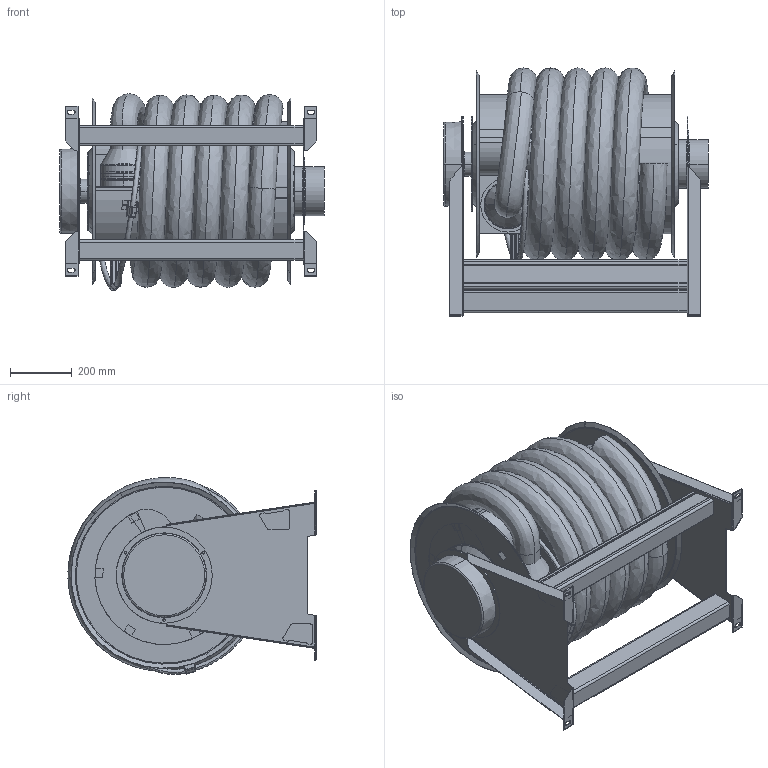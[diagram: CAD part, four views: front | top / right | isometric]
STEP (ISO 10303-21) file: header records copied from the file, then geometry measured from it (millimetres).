
FILE_DESCRIPTION((''),'2;1');
FILE_NAME('ASE_65_75_10','2016-12-13T',('Martin Eriksson'),(''),'CREO PARAMETRIC BY PTC INC, 2016130','CREO PARAMETRIC BY PTC INC, 2016130','');
FILE_SCHEMA(('AUTOMOTIVE_DESIGN { 1 0 10303 214 1 1 1 1 }'));
Length unit declared in the file: millimetre
Products named in the file (23): 110534; 110536; 110801; 111736; 111735; 110540; 112850; 110528; 110591; 110651; 110618; 110685; 110628; G_ASE_DUMMY; 124129; G_ASL-EVO_150CON_BRACKET; GUIDE_75; 110660; 124299; ASL-EVO_65_75_87; SPRING_DUMMY; AG_HOSE_75_87-65-10; ASE_65_75_10
Assembly tree (27 placements, depth 4):
  ASE_65_75_10
    110540
      110534
      110536
      110801  x2
      111736
      111735
    112850  x2
    ASL-EVO_65_75_87
      110528  x2
      110591
      110651
      110628
        110618
        110685
      G_ASL-EVO_150CON_BRACKET
        G_ASE_DUMMY
        124129
      GUIDE_75
      110660  x2
      124299
    SPRING_DUMMY
    124299
    AG_HOSE_75_87-65-10
Bounding box: 853.5 x 800.51 x 635.54 mm (x, y, z)
Volume: 163086980.7 mm3; surface area: 9734870.6 mm2
Topology: 23 solids, 28 shells, 862 faces, 2009 edges, 1204 vertices
Faces by surface type: plane 420, cylinder 267, torus 98, cone 42, bspline 35
Entity records: 40672 total; most frequent: CARTESIAN_POINT 14031, DIRECTION 3220, ORIENTED_EDGE 2910, EDGE_CURVE 1463, PRESENTATION_STYLE_ASSIGNMENT 1362, STYLED_ITEM 1361, AXIS2_PLACEMENT_3D 1184, PROPERTY_DEFINITION 1175
